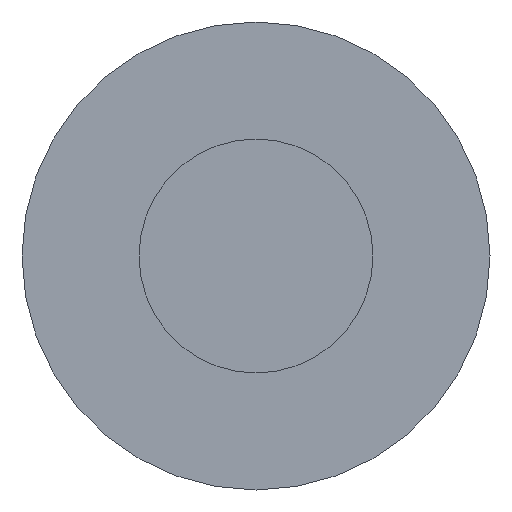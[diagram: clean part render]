
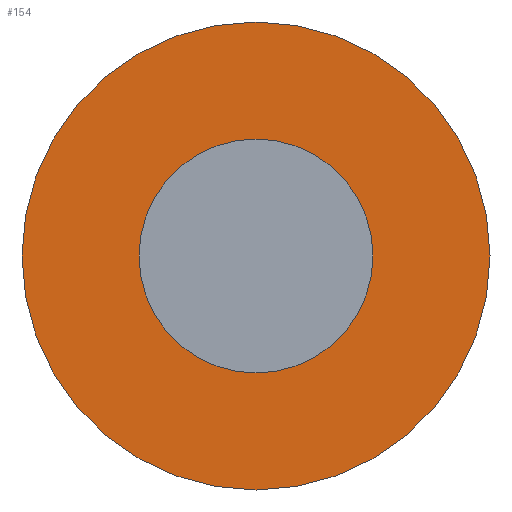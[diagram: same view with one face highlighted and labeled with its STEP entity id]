
A CAD part, front view. The second image highlights one B-rep face of the part: STEP entity #154.
In plain terms, the highlighted planar face has unit normal (0, -1, 0).
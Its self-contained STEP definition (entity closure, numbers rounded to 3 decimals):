
#1 = AXIS2_PLACEMENT_3D ( 'NONE', #96, #40, #114 ) ;
#8 = CARTESIAN_POINT ( 'NONE',  ( 0., 30., 0. ) ) ;
#10 = CARTESIAN_POINT ( 'NONE',  ( 0., 30., -5. ) ) ;
#13 = EDGE_LOOP ( 'NONE', ( #48, #159 ) ) ;
#28 = VERTEX_POINT ( 'NONE', #10 ) ;
#32 = EDGE_CURVE ( 'NONE', #44, #47, #98, .T. ) ;
#36 = AXIS2_PLACEMENT_3D ( 'NONE', #121, #188, #46 ) ;
#38 = DIRECTION ( 'NONE',  ( 0., 1., 0. ) ) ;
#40 = DIRECTION ( 'NONE',  ( 0., 1., 0. ) ) ;
#44 = VERTEX_POINT ( 'NONE', #58 ) ;
#46 = DIRECTION ( 'NONE',  ( 0., 0., 1. ) ) ;
#47 = VERTEX_POINT ( 'NONE', #181 ) ;
#48 = ORIENTED_EDGE ( 'NONE', *, *, #140, .F. ) ;
#50 = DIRECTION ( 'NONE',  ( 0., 0., 1. ) ) ;
#52 = AXIS2_PLACEMENT_3D ( 'NONE', #211, #38, #93 ) ;
#53 = FACE_BOUND ( 'NONE', #108, .T. ) ;
#58 = CARTESIAN_POINT ( 'NONE',  ( 0., 30., 2.5 ) ) ;
#66 = CIRCLE ( 'NONE', #52, 2.5 ) ;
#70 = VERTEX_POINT ( 'NONE', #115 ) ;
#77 = DIRECTION ( 'NONE',  ( 0., 0., 1. ) ) ;
#78 = PLANE ( 'NONE',  #182 ) ;
#89 = CIRCLE ( 'NONE', #97, 5. ) ;
#93 = DIRECTION ( 'NONE',  ( 0., 0., 1. ) ) ;
#94 = FACE_OUTER_BOUND ( 'NONE', #13, .T. ) ;
#96 = CARTESIAN_POINT ( 'NONE',  ( 0., 30., 0. ) ) ;
#97 = AXIS2_PLACEMENT_3D ( 'NONE', #113, #178, #77 ) ;
#98 = CIRCLE ( 'NONE', #1, 2.5 ) ;
#105 = ORIENTED_EDGE ( 'NONE', *, *, #32, .T. ) ;
#108 = EDGE_LOOP ( 'NONE', ( #150, #105 ) ) ;
#113 = CARTESIAN_POINT ( 'NONE',  ( 0., 30., 0. ) ) ;
#114 = DIRECTION ( 'NONE',  ( 0., 0., 1. ) ) ;
#115 = CARTESIAN_POINT ( 'NONE',  ( 0., 30., 5. ) ) ;
#116 = EDGE_CURVE ( 'NONE', #70, #28, #187, .T. ) ;
#121 = CARTESIAN_POINT ( 'NONE',  ( 0., 30., 0. ) ) ;
#122 = EDGE_CURVE ( 'NONE', #47, #44, #66, .T. ) ;
#140 = EDGE_CURVE ( 'NONE', #28, #70, #89, .T. ) ;
#142 = DIRECTION ( 'NONE',  ( 0., 1., 0. ) ) ;
#150 = ORIENTED_EDGE ( 'NONE', *, *, #122, .T. ) ;
#154 = ADVANCED_FACE ( 'NONE', ( #53, #94 ), #78, .F. ) ;
#159 = ORIENTED_EDGE ( 'NONE', *, *, #116, .F. ) ;
#178 = DIRECTION ( 'NONE',  ( 0., 1., 0. ) ) ;
#181 = CARTESIAN_POINT ( 'NONE',  ( 0., 30., -2.5 ) ) ;
#182 = AXIS2_PLACEMENT_3D ( 'NONE', #8, #142, #50 ) ;
#187 = CIRCLE ( 'NONE', #36, 5. ) ;
#188 = DIRECTION ( 'NONE',  ( 0., 1., 0. ) ) ;
#211 = CARTESIAN_POINT ( 'NONE',  ( 0., 30., 0. ) ) ;
